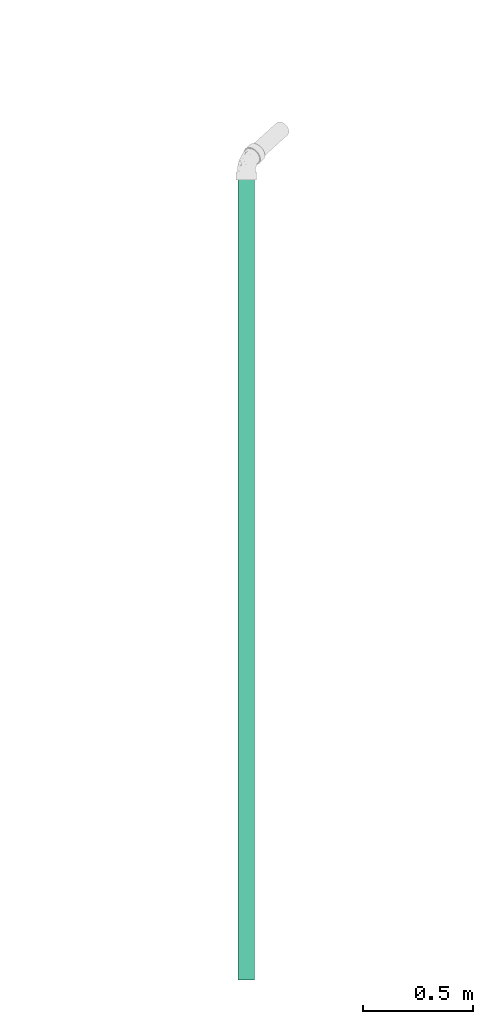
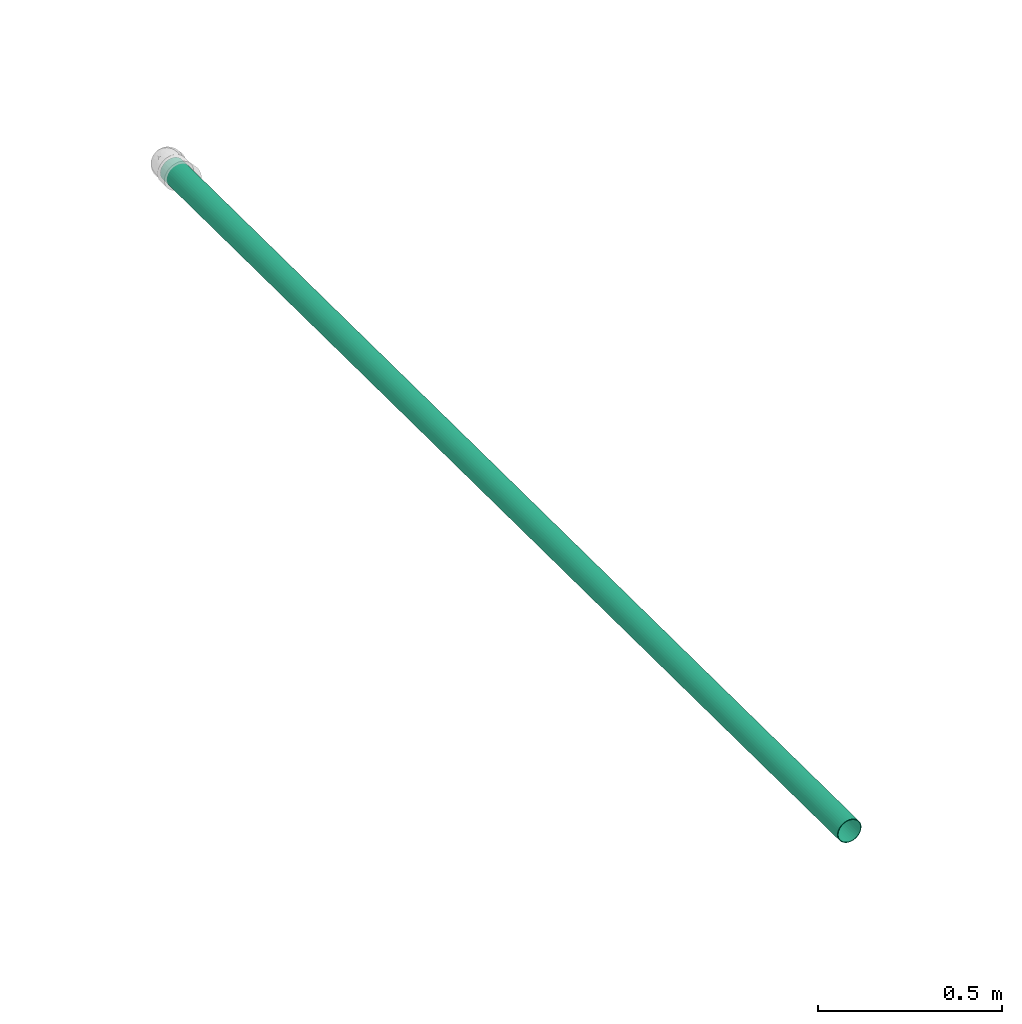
# One storey, part 13 of 17: 1 flow segment.
"""IFC2X3 building model written with IfcOpenShell, lengths in millimetres."""

from ifc_helpers import new_model, entity, si_unit, converted_unit, derived_unit, direction, frame, place, context, subcontext, project, spatial, faceted_brep, type_object, element, save


model = new_model("IFC2X3")

# Units and contexts
model_context = context("Model", 3, precision=0.01, world=frame((0.0, 4.29681676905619e-09, 0.0)), true_north=direction((4.01073788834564e-13, 1.0)))
plan_context = context("Plan", 3, precision=0.01, world=frame((0.0, 4.29681676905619e-09, 0.0)), true_north=direction((4.01073788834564e-13, 1.0)))
body_context = subcontext(model_context, "Body", "Model", "MODEL_VIEW")
ifc_project = project(units=[converted_unit("PLANEANGLEUNIT", "DEGREE", entity("IfcPositiveLengthMeasure", 0.0174532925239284), si_unit("PLANEANGLEUNIT", "RADIAN"), dimensions=[0, 0, 0, 0, 0, 0, 0]), si_unit("AREAUNIT", "SQUARE_METRE"), si_unit("LENGTHUNIT", "METRE", prefix="MILLI"), si_unit("MASSUNIT", "GRAM", prefix="KILO"), si_unit("POWERUNIT", "WATT"), si_unit("PRESSUREUNIT", "PASCAL", prefix="KILO"), si_unit("FORCEUNIT", "NEWTON", prefix="KILO"), si_unit("ELECTRICVOLTAGEUNIT", "VOLT"), si_unit("ELECTRICCURRENTUNIT", "AMPERE"), si_unit("THERMODYNAMICTEMPERATUREUNIT", "DEGREE_CELSIUS"), si_unit("TIMEUNIT", "SECOND"), si_unit("VOLUMEUNIT", "CUBIC_METRE"), derived_unit("LINEARVELOCITYUNIT", [(si_unit("LENGTHUNIT", "METRE"), 1), (si_unit("TIMEUNIT", "SECOND"), -1)]), derived_unit("VOLUMETRICFLOWRATEUNIT", [(si_unit("VOLUMEUNIT", "CUBIC_METRE"), 1), (si_unit("TIMEUNIT", "SECOND"), -1)]), derived_unit("THERMALTRANSMITTANCEUNIT", [(si_unit("POWERUNIT", "WATT"), 1), (si_unit("THERMODYNAMICTEMPERATUREUNIT", "KELVIN"), -1), (si_unit("AREAUNIT", "SQUARE_METRE"), -1)]), derived_unit("SOUNDPRESSUREUNIT", [(si_unit("PRESSUREUNIT", "PASCAL"), 1)])], contexts=[model_context, plan_context])

# Site, building, storey
site_placement = place(None, frame((0.0, -4.29681676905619e-09, 0.0), z_axis=(0.0, 0.0, 1.0), x_axis=(1.0, 0.0, 0.0)))
site = spatial("IfcSite", under=ifc_project, at=site_placement, Name="ENGM", CompositionType="ELEMENT")
building_placement = place(site_placement, frame((0.0, 4.29681676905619e-09, 0.0), z_axis=(0.0, 0.0, 1.0), x_axis=(1.0, 0.0, 0.0)))
building = spatial("IfcBuilding", under=site, at=building_placement, Name="TI", CompositionType="ELEMENT")
storey_placement = place(building_placement, frame((0.0, 0.0, 207370.0), z_axis=(0.0, 0.0, 1.0), x_axis=(1.0, 0.0, 0.0)))
storey = spatial("IfcBuildingStorey", under=building, at=storey_placement, Name="Nivå E", CompositionType="ELEMENT", Elevation=207370.0)

# Flow segment
pipe_segment_type = type_object("IfcPipeSegmentType", Name="MA", PredefinedType="RIGIDSEGMENT")
flow_segment_placement = place(storey_placement, frame((592114.02575, 569356.36277, 2747.53539), z_axis=(-0.626596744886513, 0.00779299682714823, 0.779304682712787), x_axis=(-1.25210267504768e-06, 0.999949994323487, -0.0100004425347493)))
element("IfcFlowSegment", 1, at=flow_segment_placement, inside=storey, type_object=pipe_segment_type, Name="MA", context=body_context, shape_type="Brep", body=[
    faceted_brep([(373.921205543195, 34.9606752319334, -6.16451030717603), (373.876543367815, 35.5, 0.0), (4062.0, 35.5, 0.0), (4062.0, 34.9606752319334, -6.16451030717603), (373.957750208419, 33.3590880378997, -12.1417150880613), (4062.0, 33.3590880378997, -12.1417150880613), (373.985066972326, 30.7439018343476, -17.75), (4062.0, 30.7439018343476, -17.75), (374.002325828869, 27.1945777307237, -22.8189601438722), (4062.0, 27.1945777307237, -22.8189601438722), (374.009002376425, 22.8189601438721, -27.1945777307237), (4062.0, 22.8189601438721, -27.1945777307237), (374.004893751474, 17.75, -30.7439018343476), (4062.0, 17.75, -30.7439018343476), (373.990124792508, 12.1417150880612, -33.3590880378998), (4062.0, 12.1417150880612, -33.3590880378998), (373.96514424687, 6.16451030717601, -34.9606752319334), (4062.0, 6.16451030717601, -34.9606752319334), (373.930711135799, -6.52124420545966e-15, -35.5), (4062.0, -6.52124420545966e-15, -35.5), (373.887871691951, -6.16451030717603, -34.9606752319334), (4062.0, -6.16451030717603, -34.9606752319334), (373.83792757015, -12.1417150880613, -33.3590880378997), (4062.0, -12.1417150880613, -33.3590880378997), (373.782396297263, -17.75, -30.7439018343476), (4062.0, -17.75, -30.7439018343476), (373.722965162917, -22.8189601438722, -27.1945777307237), (4062.0, -22.8189601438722, -27.1945777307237), (373.661439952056, -27.1945777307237, -22.8189601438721), (4062.0, -27.1945777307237, -22.8189601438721), (373.599690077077, -30.7439018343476, -17.75), (4062.0, -30.7439018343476, -17.75), (373.539591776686, -33.3590880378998, -12.1417150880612), (4062.0, -33.3590880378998, -12.1417150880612), (373.482971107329, -34.9606752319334, -6.16451030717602), (4062.0, -34.9606752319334, -6.16451030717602), (373.431548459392, -35.5, 4.3474961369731e-15), (4062.0, -35.5, 4.3474961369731e-15), (373.386886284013, -34.9606752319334, 6.16451030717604), (4062.0, -34.9606752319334, 6.16451030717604), (373.350341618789, -33.3590880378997, 12.1417150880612), (4062.0, -33.3590880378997, 12.1417150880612), (373.323024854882, -30.7439018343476, 17.75), (4062.0, -30.7439018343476, 17.75), (373.305765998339, -27.1945777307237, 22.8189601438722), (4062.0, -27.1945777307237, 22.8189601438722), (373.299089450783, -22.8189601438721, 27.1945777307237), (4062.0, -22.8189601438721, 27.1945777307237), (373.303198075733, -17.75, 30.7439018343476), (4062.0, -17.75, 30.7439018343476), (373.3179670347, -12.1417150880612, 33.3590880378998), (4062.0, -12.1417150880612, 33.3590880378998), (373.342947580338, -6.16451030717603, 34.9606752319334), (4062.0, -6.16451030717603, 34.9606752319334), (373.377380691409, 2.17374806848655e-15, 35.5), (4062.0, 2.17374806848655e-15, 35.5), (373.420220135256, 6.16451030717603, 34.9606752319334), (4062.0, 6.16451030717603, 34.9606752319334), (373.470164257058, 12.1417150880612, 33.3590880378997), (4062.0, 12.1417150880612, 33.3590880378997), (373.525695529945, 17.75, 30.7439018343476), (4062.0, 17.75, 30.7439018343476), (373.585126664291, 22.8189601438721, 27.1945777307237), (4062.0, 22.8189601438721, 27.1945777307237), (373.646651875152, 27.1945777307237, 22.8189601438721), (4062.0, 27.1945777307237, 22.8189601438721), (373.708401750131, 30.7439018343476, 17.75), (4062.0, 30.7439018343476, 17.75), (373.768500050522, 33.3590880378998, 12.1417150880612), (4062.0, 33.3590880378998, 12.1417150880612), (373.825120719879, 34.9606752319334, 6.16451030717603), (4062.0, 34.9606752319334, 6.16451030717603), (373.889078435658, 37.5, 0.0), (373.936256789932, 36.9302907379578, -6.51180666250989), (4062.0, 36.9302907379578, -6.51180666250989), (4062.0, 37.5, 0.0), (373.834758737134, 36.9302907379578, 6.51180666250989), (4062.0, 36.9302907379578, 6.51180666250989), (373.774948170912, 35.2384732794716, 12.8257553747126), (4062.0, 35.2384732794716, 12.8257553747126), (373.71146405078, 32.4759526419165, 18.75), (4062.0, 32.4759526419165, 18.75), (373.646235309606, 28.7266666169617, 24.1045353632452), (4062.0, 28.7266666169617, 24.1045353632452), (373.581243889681, 24.1045353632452, 28.7266666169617), (4062.0, 24.1045353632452, 28.7266666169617), (373.518464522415, 18.75, 32.4759526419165), (4062.0, 18.75, 32.4759526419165), (373.459804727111, 12.8257553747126, 35.2384732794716), (4062.0, 12.8257553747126, 35.2384732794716), (373.407046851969, 6.51180666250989, 36.9302907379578), (4062.0, 6.51180666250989, 36.9302907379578), (373.361793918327, 2.29621274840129e-15, 37.5), (4062.0, 2.29621274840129e-15, 37.5), (373.325420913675, -6.51180666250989, 36.9302907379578), (4062.0, -6.51180666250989, 36.9302907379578), (373.299033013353, -12.8257553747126, 35.2384732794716), (4062.0, -12.8257553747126, 35.2384732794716), (373.28343200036, -18.75, 32.4759526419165), (4062.0, -18.75, 32.4759526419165), (373.279091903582, -24.1045353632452, 28.7266666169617), (4062.0, -24.1045353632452, 28.7266666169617), (373.286144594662, -28.7266666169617, 24.1045353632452), (4062.0, -28.7266666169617, 24.1045353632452), (373.304375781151, -32.4759526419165, 18.75), (4062.0, -32.4759526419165, 18.75), (373.333231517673, -35.2384732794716, 12.8257553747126), (4062.0, -35.2384732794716, 12.8257553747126), (373.371835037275, -36.9302907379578, 6.5118066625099), (4062.0, -36.9302907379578, 6.5118066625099), (373.41901339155, -37.5, 4.59242549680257e-15), (4062.0, -37.5, 4.59242549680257e-15), (373.473333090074, -36.9302907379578, -6.51180666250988), (4062.0, -36.9302907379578, -6.51180666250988), (373.533143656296, -35.2384732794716, -12.8257553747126), (4062.0, -35.2384732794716, -12.8257553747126), (373.596627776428, -32.4759526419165, -18.75), (4062.0, -32.4759526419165, -18.75), (373.661856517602, -28.7266666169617, -24.1045353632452), (4062.0, -28.7266666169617, -24.1045353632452), (373.726847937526, -24.1045353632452, -28.7266666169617), (4062.0, -24.1045353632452, -28.7266666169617), (373.789627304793, -18.75, -32.4759526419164), (4062.0, -18.75, -32.4759526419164), (373.848287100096, -12.8257553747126, -35.2384732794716), (4062.0, -12.8257553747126, -35.2384732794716), (373.901044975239, -6.51180666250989, -36.9302907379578), (4062.0, -6.51180666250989, -36.9302907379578), (373.946297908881, -6.88863824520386e-15, -37.5), (4062.0, -6.88863824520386e-15, -37.5), (373.982670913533, 6.51180666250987, -36.9302907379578), (4062.0, 6.51180666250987, -36.9302907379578), (374.009058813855, 12.8257553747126, -35.2384732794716), (4062.0, 12.8257553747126, -35.2384732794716), (374.024659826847, 18.75, -32.4759526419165), (4062.0, 18.75, -32.4759526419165), (374.028999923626, 24.1045353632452, -28.7266666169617), (4062.0, 24.1045353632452, -28.7266666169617), (374.021947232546, 28.7266666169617, -24.1045353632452), (4062.0, 28.7266666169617, -24.1045353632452), (374.003716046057, 32.4759526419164, -18.75), (4062.0, 32.4759526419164, -18.75), (373.974860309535, 35.2384732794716, -12.8257553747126), (4062.0, 35.2384732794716, -12.8257553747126)], [[[0, 1, 2, 3]], [[4, 0, 3, 5]], [[6, 4, 5, 7]], [[8, 6, 7, 9]], [[10, 8, 9, 11]], [[12, 10, 11, 13]], [[14, 12, 13, 15]], [[16, 14, 15, 17]], [[18, 16, 17, 19]], [[20, 18, 19, 21]], [[22, 20, 21, 23]], [[24, 22, 23, 25]], [[26, 24, 25, 27]], [[28, 26, 27, 29]], [[30, 28, 29, 31]], [[32, 30, 31, 33]], [[34, 32, 33, 35]], [[36, 34, 35, 37]], [[38, 36, 37, 39]], [[40, 38, 39, 41]], [[42, 40, 41, 43]], [[44, 42, 43, 45]], [[46, 44, 45, 47]], [[48, 46, 47, 49]], [[50, 48, 49, 51]], [[52, 50, 51, 53]], [[54, 52, 53, 55]], [[56, 54, 55, 57]], [[58, 56, 57, 59]], [[60, 58, 59, 61]], [[62, 60, 61, 63]], [[64, 62, 63, 65]], [[66, 64, 65, 67]], [[68, 66, 67, 69]], [[70, 68, 69, 71]], [[1, 70, 71, 2]], [[72, 73, 74, 75]], [[76, 72, 75, 77]], [[78, 76, 77, 79]], [[80, 78, 79, 81]], [[82, 80, 81, 83]], [[84, 82, 83, 85]], [[86, 84, 85, 87]], [[88, 86, 87, 89]], [[90, 88, 89, 91]], [[92, 90, 91, 93]], [[94, 92, 93, 95]], [[96, 94, 95, 97]], [[98, 96, 97, 99]], [[100, 98, 99, 101]], [[102, 100, 101, 103]], [[104, 102, 103, 105]], [[106, 104, 105, 107]], [[108, 106, 107, 109]], [[110, 108, 109, 111]], [[112, 110, 111, 113]], [[114, 112, 113, 115]], [[116, 114, 115, 117]], [[118, 116, 117, 119]], [[120, 118, 119, 121]], [[122, 120, 121, 123]], [[124, 122, 123, 125]], [[126, 124, 125, 127]], [[128, 126, 127, 129]], [[130, 128, 129, 131]], [[132, 130, 131, 133]], [[134, 132, 133, 135]], [[136, 134, 135, 137]], [[138, 136, 137, 139]], [[140, 138, 139, 141]], [[142, 140, 141, 143]], [[73, 142, 143, 74]], [[75, 74, 143, 141, 139, 137, 135, 133, 131, 129, 127, 125, 123, 121, 119, 117, 115, 113, 111, 109, 107, 105, 103, 101, 99, 97, 95, 93, 91, 89, 87, 85, 83, 81, 79, 77], [2, 71, 69, 67, 65, 63, 61, 59, 57, 55, 53, 51, 49, 47, 45, 43, 41, 39, 37, 35, 33, 31, 29, 27, 25, 23, 21, 19, 17, 15, 13, 11, 9, 7, 5, 3]], [[76, 78, 80, 82, 84, 86, 88, 90, 92, 94, 96, 98, 100, 102, 104, 106, 108, 110, 112, 114, 116, 118, 120, 122, 124, 126, 128, 130, 132, 134, 136, 138, 140, 142, 73, 72], [4, 6, 8, 10, 12, 14, 16, 18, 20, 22, 24, 26, 28, 30, 32, 34, 36, 38, 40, 42, 44, 46, 48, 50, 52, 54, 56, 58, 60, 62, 64, 66, 68, 70, 1, 0]]], orient=[[False], [False], [False], [False], [False], [False], [False], [False], [False], [False], [False], [False], [False], [False], [False], [False], [False], [False], [False], [False], [False], [False], [False], [False], [False], [False], [False], [False], [False], [False], [False], [False], [False], [False], [False], [False], [False], [False], [False], [False], [False], [False], [False], [False], [False], [False], [False], [False], [False], [False], [False], [False], [False], [False], [False], [False], [False], [False], [False], [False], [False], [False], [False], [False], [False], [False], [False], [False], [False], [False], [False], [False], [False, False], [False, False]]),
])

save(model, "model.ifc")
